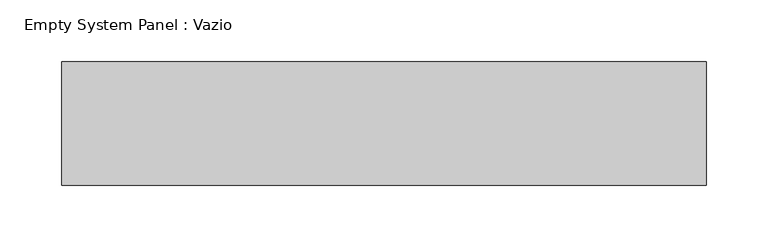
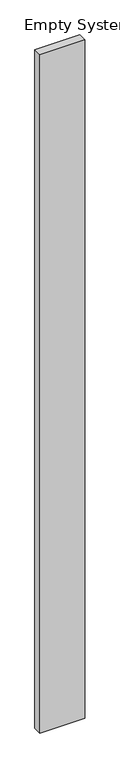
"""IFC4 building model written with IfcOpenShell, lengths in millimetres: plate geometry, Empty System Panel : Vazio."""

import ifcopenshell
import ifcopenshell.guid

model = None  # the IFC model being written
_history = None  # IfcOwnerHistory: only IFC2X3 demands one
_inside = {}  # id of a spatial element -> (the spatial element, [elements in it])
_under = {}  # id of a project, library or spatial element -> (it, [spatial elements below it])
_declared = {}  # id of a project -> (the project, [libraries it declares])
_typed = {}  # id of a type object -> (the type object, [elements of that type])
_made_of = {}  # id of a material, layer set ... -> (it, [elements and type objects made of it])


def new_model(schema):
    """Start an empty IFC model of exactly this schema.

    Asked for "IFC4X3", IfcOpenShell would pick the latest addendum, in which some entities
    have other attributes; the version numbers below select the first issue.
    IFC2X3 requires an IfcOwnerHistory on every rooted entity: one is made here for all.
    """
    global model, _history
    if schema == "IFC4X3":
        model = ifcopenshell.file(schema_version=(4, 3, 0, 0))
    else:
        model = ifcopenshell.file(schema=schema)
    _inside.clear()
    _under.clear()
    _declared.clear()
    _typed.clear()
    _made_of.clear()
    _history = None
    if model.schema == "IFC2X3":
        org = make("IfcOrganization", Name="unknown")
        user = make(
            "IfcPersonAndOrganization",
            ThePerson=make("IfcPerson", FamilyName="unknown"),
            TheOrganization=org,
        )
        app = make(
            "IfcApplication",
            ApplicationDeveloper=org,
            Version="unknown",
            ApplicationFullName="unknown",
            ApplicationIdentifier="unknown",
        )
        _history = make(
            "IfcOwnerHistory",
            OwningUser=user,
            OwningApplication=app,
            ChangeAction="ADDED",
            CreationDate=0,
        )
    return model


def make(cls, **values):
    """One entity of the class cls with the attributes given. An attribute that is None is left unset."""
    return model.create_entity(
        cls, **{name: value for name, value in values.items() if value is not None}
    )


def rooted(cls, **values):
    """An entity with a GlobalId (a new one), such as an element, a storey or a relation."""
    return make(cls, GlobalId=ifcopenshell.guid.new(), OwnerHistory=_history, **values)


def si_unit(unit_type, name, prefix=None):
    """IfcSIUnit, for example si_unit("LENGTHUNIT", "METRE", prefix="MILLI")."""
    return make("IfcSIUnit", UnitType=unit_type, Prefix=prefix, Name=name)


def assignment(units):
    """IfcUnitAssignment: the units of a project."""
    return None if units is None else make("IfcUnitAssignment", Units=units)


def point(xyz):
    """IfcCartesianPoint."""
    return None if xyz is None else make("IfcCartesianPoint", Coordinates=xyz)


def direction(xyz):
    """IfcDirection."""
    return None if xyz is None else make("IfcDirection", DirectionRatios=xyz)


def frame(location, z_axis=None, x_axis=None):
    """IfcAxis2Placement3D, a coordinate frame: its origin and axes. An axis left out is left unset."""
    return make(
        "IfcAxis2Placement3D",
        Location=point(location),
        Axis=direction(z_axis),
        RefDirection=direction(x_axis),
    )


def origin():
    """The frame at (0, 0, 0) with its axes left unset."""
    return frame((0.0, 0.0, 0.0))


def origin_with_axes():
    """The frame at (0, 0, 0) with the z axis (0, 0, 1) and the x axis (1, 0, 0) written out."""
    return frame((0.0, 0.0, 0.0), z_axis=(0.0, 0.0, 1.0), x_axis=(1.0, 0.0, 0.0))


def place(relative_to, where):
    """IfcLocalPlacement: puts the frame where relative to a parent placement (None: the world)."""
    return make(
        "IfcLocalPlacement", PlacementRelTo=relative_to, RelativePlacement=where
    )


def context(
    kind, dimensions, precision=None, world=None, true_north=None, identifier=None
):
    """IfcGeometricRepresentationContext, for example the 3D "Model" context."""
    return make(
        "IfcGeometricRepresentationContext",
        ContextIdentifier=identifier,
        ContextType=kind,
        CoordinateSpaceDimension=dimensions,
        Precision=precision,
        WorldCoordinateSystem=world,
        TrueNorth=true_north,
    )


def project(units=None, contexts=None):
    """IfcProject with its units and contexts."""
    return rooted(
        "IfcProject",
        Name="project",
        RepresentationContexts=contexts,
        UnitsInContext=assignment(units),
    )


def spatial(cls, under=None, at=None, **own):
    """A site, building, storey or space (cls), placed at a placement, below another one or the project."""
    s = rooted(cls, ObjectPlacement=at, **own)
    if under is not None:
        _under.setdefault(under.id(), (under, []))[1].append(s)
    return s


def polyline(points):
    """IfcPolyline through the points."""
    return make("IfcPolyline", Points=[point(p) for p in points])


def outline(outer, holes=None, kind="AREA"):
    """IfcArbitraryClosedProfileDef: a profile drawn as a closed curve; with holes, ...WithVoids."""
    if holes is None:
        return make("IfcArbitraryClosedProfileDef", ProfileType=kind, OuterCurve=outer)
    return make(
        "IfcArbitraryProfileDefWithVoids",
        ProfileType=kind,
        OuterCurve=outer,
        InnerCurves=holes,
    )


def extrude(swept, where, along, depth):
    """IfcExtrudedAreaSolid: the profile swept, set in the frame where, extruded along a direction by depth."""
    return make(
        "IfcExtrudedAreaSolid",
        SweptArea=swept,
        Position=where,
        ExtrudedDirection=direction(along),
        Depth=depth,
    )


def shape(context_of_items, identifier, shape_type, items):
    """IfcShapeRepresentation: the items that make up one representation, for example the "Body"."""
    return make(
        "IfcShapeRepresentation",
        ContextOfItems=context_of_items,
        RepresentationIdentifier=identifier,
        RepresentationType=shape_type,
        Items=items,
    )


def source(mapping_origin, context_of_items, identifier, shape_type, items):
    """IfcRepresentationMap: a shape defined once, which mapped items show again and again."""
    return make(
        "IfcRepresentationMap",
        MappingOrigin=mapping_origin,
        MappedRepresentation=shape(context_of_items, identifier, shape_type, items),
    )


def transform(
    local_origin,
    x_axis=None,
    y_axis=None,
    z_axis=None,
    scale=None,
    scale2=None,
    scale3=None,
    uniform=True,
):
    """IfcCartesianTransformationOperator3D, or its non-uniform kind. x_axis, y_axis, z_axis: its Axis1, 2, 3."""
    if uniform:
        return make(
            "IfcCartesianTransformationOperator3D",
            Axis1=direction(x_axis),
            Axis2=direction(y_axis),
            LocalOrigin=point(local_origin),
            Scale=scale,
            Axis3=direction(z_axis),
        )
    return make(
        "IfcCartesianTransformationOperator3DnonUniform",
        Axis1=direction(x_axis),
        Axis2=direction(y_axis),
        LocalOrigin=point(local_origin),
        Scale=scale,
        Axis3=direction(z_axis),
        Scale2=scale2,
        Scale3=scale3,
    )


def mapped(mapping_source, mapping_target):
    """IfcMappedItem: shows the shape of a source again, moved by a transform."""
    return make(
        "IfcMappedItem", MappingSource=mapping_source, MappingTarget=mapping_target
    )


def made_of(thing, what):
    """Note that an element or type object is made of a material, layer set ...; save() writes the relation."""
    if what is not None:
        _made_of.setdefault(what.id(), (what, []))[1].append(thing)
    return thing


def element(
    cls,
    number,
    at=None,
    inside=None,
    cuts=None,
    type_object=None,
    material=None,
    context=None,
    identifier="Body",
    shape_type=None,
    held_by="IfcProductDefinitionShape",
    body=None,
    shapes=None,
    **own,
):
    """One element of the class cls, such as IfcWall. Its Tag is "e" and its number.

    at: its placement. inside: the storey or other place that contains it. cuts: it is an
    opening in that element (IfcRelVoidsElement). A single representation is given by context,
    identifier, shape_type and body (its items); several are given by shapes. held_by: the class
    of the entity that holds the representations. save() writes the other relations.
    """
    e = rooted(cls, Tag="e%d" % number, ObjectPlacement=at, **own)
    if body is not None:
        shapes = [shape(context, identifier, shape_type, body)]
    if shapes is not None:
        e.Representation = make(held_by, Representations=shapes)
    if inside is not None:
        _inside.setdefault(inside.id(), (inside, []))[1].append(e)
    if cuts is not None:
        rooted(
            "IfcRelVoidsElement", RelatingBuildingElement=cuts, RelatedOpeningElement=e
        )
    if type_object is not None:
        _typed.setdefault(type_object.id(), (type_object, []))[1].append(e)
    return made_of(e, material)


def aggregate(whole, parts):
    """IfcRelAggregates: a whole, such as a stair, and the parts it consists of."""
    return rooted("IfcRelAggregates", RelatingObject=whole, RelatedObjects=parts)


def save(model, path):
    """Write the relations noted so far, then the file.

    IfcRelAggregates (storeys below a building ...), IfcRelContainedInSpatialStructure (elements
    in a storey), IfcRelDefinesByType, IfcRelAssociatesMaterial and IfcRelDeclares: one each for
    every whole, place, type object, material and project.
    """
    for whole, parts in _under.values():
        aggregate(whole, parts)
    for where, things in _inside.values():
        rooted(
            "IfcRelContainedInSpatialStructure",
            RelatedElements=things,
            RelatingStructure=where,
        )
    for kind, things in _typed.values():
        rooted("IfcRelDefinesByType", RelatedObjects=things, RelatingType=kind)
    for what, things in _made_of.values():
        rooted("IfcRelAssociatesMaterial", RelatedObjects=things, RelatingMaterial=what)
    for by, libraries in _declared.values():
        rooted("IfcRelDeclares", RelatingContext=by, RelatedDefinitions=libraries)
    model.write(path)


def empty_system_panel_vazio_568114d9(model_context):
    return source(origin(), model_context, "Body", "SweptSolid", [
        extrude(outline(polyline([(261.2469266, 50.0), (-261.2469266, 50.0), (-261.2469266, 150.0), (261.2469266, 150.0), (261.2469266, 50.0)])), origin_with_axes(), (0.0, 0.0, 1.0), 8322.2452071),
    ])


if __name__ == "__main__":
    model = new_model("IFC4")
    model_context = context("Model", 3, world=origin())
    ifc_project = project(units=[si_unit("LENGTHUNIT", "METRE", prefix="MILLI")], contexts=[model_context])
    site = spatial("IfcSite", under=ifc_project)
    building = spatial("IfcBuilding", under=site)
    placement = place(None, origin())
    empty_system_panel_vazio_shape = empty_system_panel_vazio_568114d9(model_context)
    element("IfcPlate", 1, ObjectType="Empty System Panel : Vazio", at=placement, inside=building, context=model_context, shape_type="MappedRepresentation", body=[
        mapped(empty_system_panel_vazio_shape, transform((0.0, 0.0, 0.0), x_axis=(1.0, 0.0, 0.0), y_axis=(0.0, 1.0, 0.0), z_axis=(0.0, 0.0, 1.0))),
    ])
    save(model, "model.ifc")
